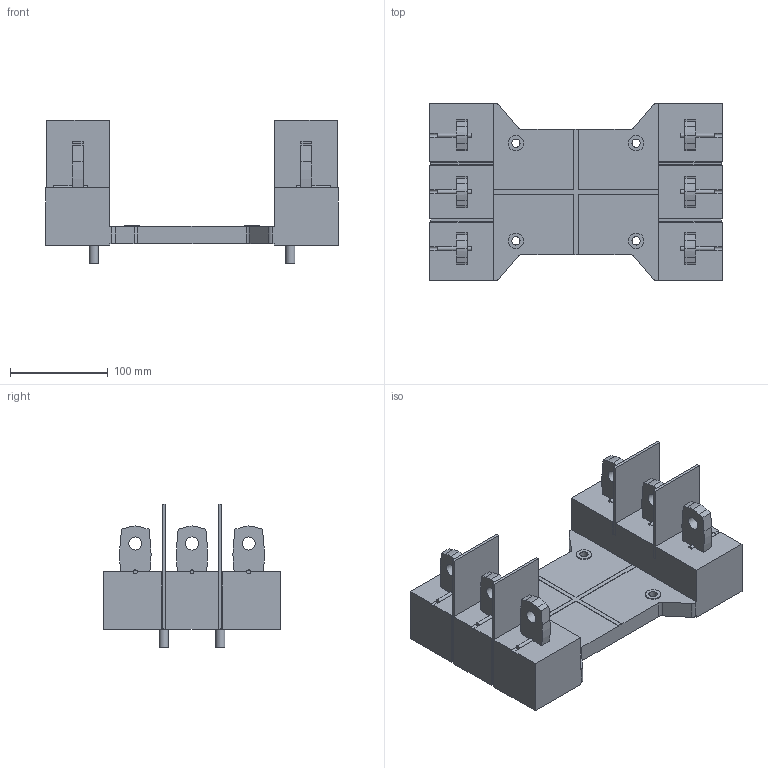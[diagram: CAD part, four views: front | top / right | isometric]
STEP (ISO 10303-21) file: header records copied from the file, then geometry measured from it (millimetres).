
FILE_DESCRIPTION(/* description */ (''),/* implementation_level */ '2;1');
FILE_NAME(/* name */ '_model1.stp',/* time_stamp */ '2025-09-25T08:15:43+08:00',/* author */ (''),/* organization */ (''),/* preprocessor_version */ 'ST-DEVELOPER v16',/* originating_system */ 'SIEMENS PLM Software NX 10.0',/* authorisation */ '');
FILE_SCHEMA (('AUTOMOTIVE_DESIGN { 1 0 10303 214 3 1 1 1 }'));
Length unit declared in the file: millimetre
Products named in the file (1): midi59BC82C24abm
Bounding box: 299.5 x 181 x 146.5 mm (x, y, z)
Volume: 1743858.8 mm3; surface area: 264756.3 mm2
Topology: 5 solids, 5 shells, 338 faces, 910 edges, 608 vertices
Faces by surface type: plane 248, cylinder 78, extrusion 12
Full cylindrical faces by diameter (mm): 5 x4, 8.5 x4, 9.5 x4, 13.4 x6, 15.8 x4, 25 x6
Entity records: 10400 total; most frequent: CARTESIAN_POINT 1914, ORIENTED_EDGE 1732, DIRECTION 1664, EDGE_CURVE 866, VECTOR 698, LINE 686, VERTEX_POINT 592, AXIS2_PLACEMENT_3D 483
